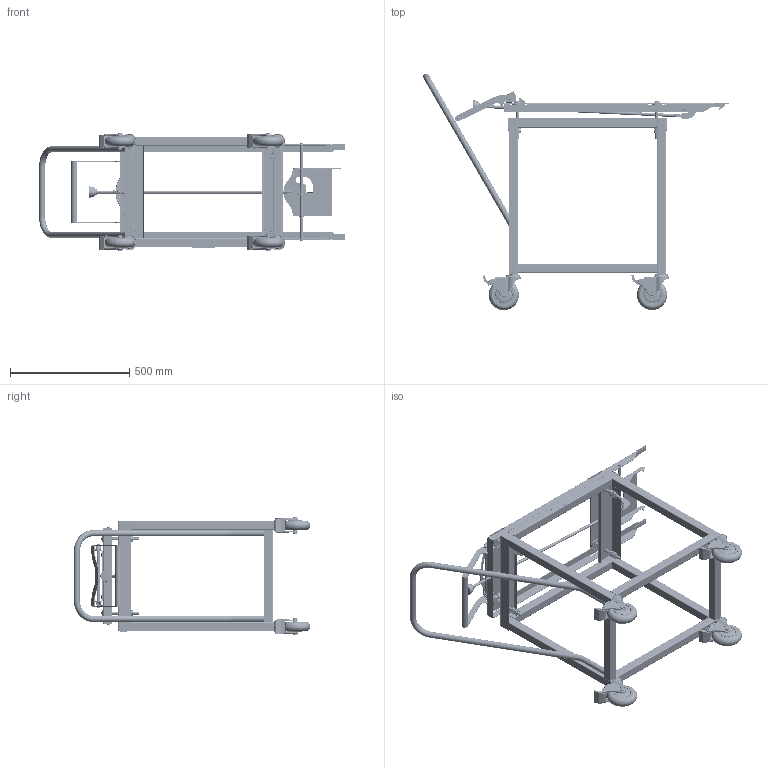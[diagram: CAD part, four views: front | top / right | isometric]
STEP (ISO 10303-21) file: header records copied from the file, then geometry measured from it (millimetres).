
FILE_DESCRIPTION (( 'STEP AP203' ), '1' );
FILE_NAME ('3AV - CARRIAGE.STEP', '2026-05-18T20:24:00', ( '' ), ( '' ), 'SwSTEP 2.0', 'SolidWorks 2024', '' );
FILE_SCHEMA (( 'CONFIG_CONTROL_DESIGN' ));
Length unit declared in the file: inch
Products named in the file (32): SPRING, COMPRESSION, 0.72 OD X 2.00 LG, 0.072 THK_9435K151; 1.125 X 3.75 NAMEPLATE_Config1; 93256 - CARRIAGE - CATCH ROD SUPPORT_Config1; WASHER, FLAT, 0.500 ID x 1.062 OD X 0.095 THK, 18-8SS_WASHER, FLAT, 0.500 ID x 1.062 OD, 18-8SS NO COATING; SPRING, TORSION, 180 LEFT-HAND FOR 0.500 OD_9271K322; 1.875 HAND KNOB, 0.5-13 X .875 LENGTH_Config1; TUBE CONNECTING NUT, 0.87-.90 TUBE ID, 0.25-20_94290A550; 93255 - CARRIAGE - CATCH HANDLE_Config1; 93310 - Carriage Top Assembly_-01, AC; WASHER, FLAT, 0.812 ID X 1.75 OD, 18-8SS_92141A056; 93225 - Carriage Weldment_3A, 3AV<As Machined>; RETAINING RING, EXTERNAL, 0.500 OD, 15-7SS; S5053-1.25SQEXP-1.5PROBL-PB-TG-iLK_prt_Config1; 93297 - CARRIAGE - HOOK ROD_Config1; 93252 - Bent Carriage Top_-01 A,C; SPRING, COMPRESSION, 0.66 OD X 1.50 LG, 0.072 THK_9657K489; NUT, HEX, 0.500-13, 0.470 THK, 0.875 OD, 18-8SS_91849A635; SPRING, TORSION, 180 RIGHT-HAND FOR 0.500 OD_9271K321; WASHER, FLAT, 0.375 ID x 0.875 OD x 0.05 THK, 18-8SS_92141A031; 93253 - CARRIAGE - CATCH_Config1; EXTERNAL RETAINING RING, SIDE MOUNT, .500 OD ROD, SS_98408A138; CARRIAGE BOLT, 0.375-16 X 1 LG, 18-8SS_92356A624; NUT, HEX, 0.375-16_NUT, HEX, 0.375"-16, 18-8 SS UNCOATED; 93298 - CARRIAGE - HOOK_Config1; 93243 - BENT CARRIAGE TOP PAD_Config1; 3AV - CARRIAGE; CLEVIS ROD END, .25-28, ZINC PLATED CARBON STEEL_1583K22; 93309 - CARRIAGE PUSH ROD_A & C; S5053-1.25SQEXP-1.5PROBL-PB-TG-iLKS_prt_Config1; SCREW, BUTTON HEAD HEX DRIVE, 0.25-20 X 0.625 LG_92949A539; CARRIAGE BOLT, 0.500-13 X 6 LG, 18-8 SS_92356A728; 93254 - CARRIAGE - CATCH ROD_-01, default
Assembly tree (74 placements, depth 3):
  3AV - CARRIAGE
    93225 - Carriage Weldment_3A, 3AV<As Machined>
    93310 - Carriage Top Assembly_-01, AC
      93252 - Bent Carriage Top_-01 A,C
      93243 - BENT CARRIAGE TOP PAD_Config1  x2
      93309 - CARRIAGE PUSH ROD_A & C
      93297 - CARRIAGE - HOOK ROD_Config1
      93298 - CARRIAGE - HOOK_Config1
      93256 - CARRIAGE - CATCH ROD SUPPORT_Config1
      93254 - CARRIAGE - CATCH ROD_-01, default
      93253 - CARRIAGE - CATCH_Config1
      93255 - CARRIAGE - CATCH HANDLE_Config1
      1.875 HAND KNOB, 0.5-13 X .875 LENGTH_Config1
      SCREW, BUTTON HEAD HEX DRIVE, 0.25-20 X 0.625 LG_92949A539  x2
      RETAINING RING, EXTERNAL, 0.500 OD, 15-7SS  x6
      CARRIAGE BOLT, 0.375-16 X 1 LG, 18-8SS_92356A624  x2
      NUT, HEX, 0.375-16_NUT, HEX, 0.375"-16, 18-8 SS UNCOATED  x2
      WASHER, FLAT, 0.375 ID x 0.875 OD x 0.05 THK, 18-8SS_92141A031  x2
      CLEVIS ROD END, .25-28, ZINC PLATED CARBON STEEL_1583K22
      SPRING, TORSION, 180 RIGHT-HAND FOR 0.500 OD_9271K321
      SPRING, TORSION, 180 LEFT-HAND FOR 0.500 OD_9271K322
      TUBE CONNECTING NUT, 0.87-.90 TUBE ID, 0.25-20_94290A550  x2
      CARRIAGE BOLT, 0.500-13 X 6 LG, 18-8 SS_92356A728  x4
      WASHER, FLAT, 0.500 ID x 1.062 OD X 0.095 THK, 18-8SS_WASHER, FLAT, 0.500 ID x 1.062 OD, 18-8SS NO COATING  x8
      NUT, HEX, 0.500-13, 0.470 THK, 0.875 OD, 18-8SS_91849A635  x12
      WASHER, FLAT, 0.812 ID X 1.75 OD, 18-8SS_92141A056  x8
      SPRING, COMPRESSION, 0.66 OD X 1.50 LG, 0.072 THK_9657K489
      SPRING, COMPRESSION, 0.72 OD X 2.00 LG, 0.072 THK_9435K151
      EXTERNAL RETAINING RING, SIDE MOUNT, .500 OD ROD, SS_98408A138  x2
    S5053-1.25SQEXP-1.5PROBL-PB-TG-iLK_prt_Config1  x2
    S5053-1.25SQEXP-1.5PROBL-PB-TG-iLKS_prt_Config1  x2
    1.125 X 3.75 NAMEPLATE_Config1  x2
Bounding box: 1282.7 x 991.8 x 496.09 mm (x, y, z)
Volume: 6697157.4 mm3; surface area: 3834021.7 mm2
Topology: 401 solids, 401 shells, 12345 faces, 31636 edges, 19755 vertices
Faces by surface type: plane 5032, cylinder 3742, cone 1146, bspline 1015, sphere 744, torus 666
Entity records: 278292 total; most frequent: CARTESIAN_POINT 123373, ORIENTED_EDGE 31912, DIRECTION 30443, EDGE_CURVE 15956, AXIS2_PLACEMENT_3D 10886, VERTEX_POINT 10188, LINE 8671, VECTOR 8671
